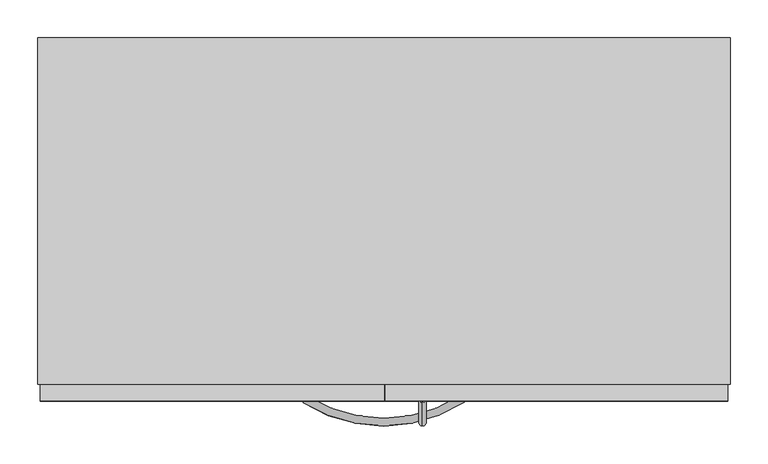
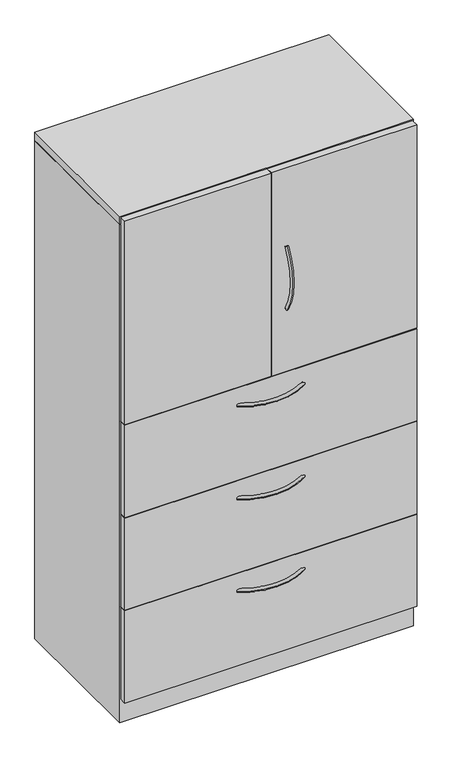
"""IFC4 building model written with IfcOpenShell, lengths in millimetres: furniture geometry, Steelcase - Universal Storage - Cabinet - Combination - Proud Steel : 65 1/2H - Hinged Doors/3 Drawers - 18 7/8D x 36W."""

import ifcopenshell
import ifcopenshell.guid

model = None  # the IFC model being written
_history = None  # IfcOwnerHistory: only IFC2X3 demands one
_inside = {}  # id of a spatial element -> (the spatial element, [elements in it])
_under = {}  # id of a project, library or spatial element -> (it, [spatial elements below it])
_declared = {}  # id of a project -> (the project, [libraries it declares])
_typed = {}  # id of a type object -> (the type object, [elements of that type])
_made_of = {}  # id of a material, layer set ... -> (it, [elements and type objects made of it])


def new_model(schema):
    """Start an empty IFC model of exactly this schema.

    Asked for "IFC4X3", IfcOpenShell would pick the latest addendum, in which some entities
    have other attributes; the version numbers below select the first issue.
    IFC2X3 requires an IfcOwnerHistory on every rooted entity: one is made here for all.
    """
    global model, _history
    if schema == "IFC4X3":
        model = ifcopenshell.file(schema_version=(4, 3, 0, 0))
    else:
        model = ifcopenshell.file(schema=schema)
    _inside.clear()
    _under.clear()
    _declared.clear()
    _typed.clear()
    _made_of.clear()
    _history = None
    if model.schema == "IFC2X3":
        org = make("IfcOrganization", Name="unknown")
        user = make(
            "IfcPersonAndOrganization",
            ThePerson=make("IfcPerson", FamilyName="unknown"),
            TheOrganization=org,
        )
        app = make(
            "IfcApplication",
            ApplicationDeveloper=org,
            Version="unknown",
            ApplicationFullName="unknown",
            ApplicationIdentifier="unknown",
        )
        _history = make(
            "IfcOwnerHistory",
            OwningUser=user,
            OwningApplication=app,
            ChangeAction="ADDED",
            CreationDate=0,
        )
    return model


def make(cls, **values):
    """One entity of the class cls with the attributes given. An attribute that is None is left unset."""
    return model.create_entity(
        cls, **{name: value for name, value in values.items() if value is not None}
    )


def rooted(cls, **values):
    """An entity with a GlobalId (a new one), such as an element, a storey or a relation."""
    return make(cls, GlobalId=ifcopenshell.guid.new(), OwnerHistory=_history, **values)


def si_unit(unit_type, name, prefix=None):
    """IfcSIUnit, for example si_unit("LENGTHUNIT", "METRE", prefix="MILLI")."""
    return make("IfcSIUnit", UnitType=unit_type, Prefix=prefix, Name=name)


def assignment(units):
    """IfcUnitAssignment: the units of a project."""
    return None if units is None else make("IfcUnitAssignment", Units=units)


def point(xyz):
    """IfcCartesianPoint."""
    return None if xyz is None else make("IfcCartesianPoint", Coordinates=xyz)


def direction(xyz):
    """IfcDirection."""
    return None if xyz is None else make("IfcDirection", DirectionRatios=xyz)


def frame(location, z_axis=None, x_axis=None):
    """IfcAxis2Placement3D, a coordinate frame: its origin and axes. An axis left out is left unset."""
    return make(
        "IfcAxis2Placement3D",
        Location=point(location),
        Axis=direction(z_axis),
        RefDirection=direction(x_axis),
    )


def origin():
    """The frame at (0, 0, 0) with its axes left unset."""
    return frame((0.0, 0.0, 0.0))


def place(relative_to, where):
    """IfcLocalPlacement: puts the frame where relative to a parent placement (None: the world)."""
    return make(
        "IfcLocalPlacement", PlacementRelTo=relative_to, RelativePlacement=where
    )


def context(
    kind, dimensions, precision=None, world=None, true_north=None, identifier=None
):
    """IfcGeometricRepresentationContext, for example the 3D "Model" context."""
    return make(
        "IfcGeometricRepresentationContext",
        ContextIdentifier=identifier,
        ContextType=kind,
        CoordinateSpaceDimension=dimensions,
        Precision=precision,
        WorldCoordinateSystem=world,
        TrueNorth=true_north,
    )


def project(units=None, contexts=None):
    """IfcProject with its units and contexts."""
    return rooted(
        "IfcProject",
        Name="project",
        RepresentationContexts=contexts,
        UnitsInContext=assignment(units),
    )


def spatial(cls, under=None, at=None, **own):
    """A site, building, storey or space (cls), placed at a placement, below another one or the project."""
    s = rooted(cls, ObjectPlacement=at, **own)
    if under is not None:
        _under.setdefault(under.id(), (under, []))[1].append(s)
    return s


def polyline(points):
    """IfcPolyline through the points."""
    return make("IfcPolyline", Points=[point(p) for p in points])


def circle_curve(where, radius):
    """IfcCircle in the frame where."""
    return make("IfcCircle", Position=where, Radius=radius)


def ellipse_curve(where, semi_axis1, semi_axis2):
    """IfcEllipse in the frame where."""
    return make(
        "IfcEllipse", Position=where, SemiAxis1=semi_axis1, SemiAxis2=semi_axis2
    )


def trimmed(basis, trim1, trim2, sense, master):
    """IfcTrimmedCurve: the piece of a basis curve between two trims."""
    return make(
        "IfcTrimmedCurve",
        BasisCurve=basis,
        Trim1=trim1,
        Trim2=trim2,
        SenseAgreement=sense,
        MasterRepresentation=master,
    )


def outline(outer, holes=None, kind="AREA"):
    """IfcArbitraryClosedProfileDef: a profile drawn as a closed curve; with holes, ...WithVoids."""
    if holes is None:
        return make("IfcArbitraryClosedProfileDef", ProfileType=kind, OuterCurve=outer)
    return make(
        "IfcArbitraryProfileDefWithVoids",
        ProfileType=kind,
        OuterCurve=outer,
        InnerCurves=holes,
    )


def extrude(swept, where, along, depth):
    """IfcExtrudedAreaSolid: the profile swept, set in the frame where, extruded along a direction by depth."""
    return make(
        "IfcExtrudedAreaSolid",
        SweptArea=swept,
        Position=where,
        ExtrudedDirection=direction(along),
        Depth=depth,
    )


def faces_of(points, faces, orient=None, outer=None):
    """IfcFace entities. A face is a list of loops; a loop is a list of indices into points, from 0.

    orient and outer hold one flag for each loop. By default every Orientation is true, the
    first loop of a face is its IfcFaceOuterBound and the others are IfcFaceBound.
    """
    made = []
    for i, loops in enumerate(faces):
        bounds = []
        for j, loop in enumerate(loops):
            is_outer = j == 0 if outer is None else outer[i][j]
            bounds.append(
                make(
                    "IfcFaceOuterBound" if is_outer else "IfcFaceBound",
                    Bound=make("IfcPolyLoop", Polygon=[points[k] for k in loop]),
                    Orientation=True if orient is None else orient[i][j],
                )
            )
        made.append(make("IfcFace", Bounds=bounds))
    return made


def faceted_brep(points, faces, orient=None, outer=None, voids=None):
    """IfcFacetedBrep: a solid bounded by flat faces; with voids (closed shells), ...WithVoids."""
    shared = [point(p) for p in points]
    hull = make("IfcClosedShell", CfsFaces=faces_of(shared, faces, orient, outer))
    if voids is None:
        return make("IfcFacetedBrep", Outer=hull)
    return make(
        "IfcFacetedBrepWithVoids",
        Outer=hull,
        Voids=[
            make(cls, CfsFaces=faces_of(shared, fs, o, b)) for cls, fs, o, b in voids
        ],
    )


def shape(context_of_items, identifier, shape_type, items):
    """IfcShapeRepresentation: the items that make up one representation, for example the "Body"."""
    return make(
        "IfcShapeRepresentation",
        ContextOfItems=context_of_items,
        RepresentationIdentifier=identifier,
        RepresentationType=shape_type,
        Items=items,
    )


def source(mapping_origin, context_of_items, identifier, shape_type, items):
    """IfcRepresentationMap: a shape defined once, which mapped items show again and again."""
    return make(
        "IfcRepresentationMap",
        MappingOrigin=mapping_origin,
        MappedRepresentation=shape(context_of_items, identifier, shape_type, items),
    )


def transform(
    local_origin,
    x_axis=None,
    y_axis=None,
    z_axis=None,
    scale=None,
    scale2=None,
    scale3=None,
    uniform=True,
):
    """IfcCartesianTransformationOperator3D, or its non-uniform kind. x_axis, y_axis, z_axis: its Axis1, 2, 3."""
    if uniform:
        return make(
            "IfcCartesianTransformationOperator3D",
            Axis1=direction(x_axis),
            Axis2=direction(y_axis),
            LocalOrigin=point(local_origin),
            Scale=scale,
            Axis3=direction(z_axis),
        )
    return make(
        "IfcCartesianTransformationOperator3DnonUniform",
        Axis1=direction(x_axis),
        Axis2=direction(y_axis),
        LocalOrigin=point(local_origin),
        Scale=scale,
        Axis3=direction(z_axis),
        Scale2=scale2,
        Scale3=scale3,
    )


def mapped(mapping_source, mapping_target):
    """IfcMappedItem: shows the shape of a source again, moved by a transform."""
    return make(
        "IfcMappedItem", MappingSource=mapping_source, MappingTarget=mapping_target
    )


def made_of(thing, what):
    """Note that an element or type object is made of a material, layer set ...; save() writes the relation."""
    if what is not None:
        _made_of.setdefault(what.id(), (what, []))[1].append(thing)
    return thing


def element(
    cls,
    number,
    at=None,
    inside=None,
    cuts=None,
    type_object=None,
    material=None,
    context=None,
    identifier="Body",
    shape_type=None,
    held_by="IfcProductDefinitionShape",
    body=None,
    shapes=None,
    **own,
):
    """One element of the class cls, such as IfcWall. Its Tag is "e" and its number.

    at: its placement. inside: the storey or other place that contains it. cuts: it is an
    opening in that element (IfcRelVoidsElement). A single representation is given by context,
    identifier, shape_type and body (its items); several are given by shapes. held_by: the class
    of the entity that holds the representations. save() writes the other relations.
    """
    e = rooted(cls, Tag="e%d" % number, ObjectPlacement=at, **own)
    if body is not None:
        shapes = [shape(context, identifier, shape_type, body)]
    if shapes is not None:
        e.Representation = make(held_by, Representations=shapes)
    if inside is not None:
        _inside.setdefault(inside.id(), (inside, []))[1].append(e)
    if cuts is not None:
        rooted(
            "IfcRelVoidsElement", RelatingBuildingElement=cuts, RelatedOpeningElement=e
        )
    if type_object is not None:
        _typed.setdefault(type_object.id(), (type_object, []))[1].append(e)
    return made_of(e, material)


def aggregate(whole, parts):
    """IfcRelAggregates: a whole, such as a stair, and the parts it consists of."""
    return rooted("IfcRelAggregates", RelatingObject=whole, RelatedObjects=parts)


def save(model, path):
    """Write the relations noted so far, then the file.

    IfcRelAggregates (storeys below a building ...), IfcRelContainedInSpatialStructure (elements
    in a storey), IfcRelDefinesByType, IfcRelAssociatesMaterial and IfcRelDeclares: one each for
    every whole, place, type object, material and project.
    """
    for whole, parts in _under.values():
        aggregate(whole, parts)
    for where, things in _inside.values():
        rooted(
            "IfcRelContainedInSpatialStructure",
            RelatedElements=things,
            RelatingStructure=where,
        )
    for kind, things in _typed.values():
        rooted("IfcRelDefinesByType", RelatedObjects=things, RelatingType=kind)
    for what, things in _made_of.values():
        rooted("IfcRelAssociatesMaterial", RelatedObjects=things, RelatingMaterial=what)
    for by, libraries in _declared.values():
        rooted("IfcRelDeclares", RelatingContext=by, RelatedDefinitions=libraries)
    model.write(path)


def plane_surface(at):
    """IfcPlane: the flat surface through the origin of the frame at, square to its z axis."""
    return make("IfcPlane", Position=at)


def revolved_surface(curve, axis_point, axis_direction):
    """IfcSurfaceOfRevolution: the curve turned about the line through axis_point along axis_direction."""
    return make(
        "IfcSurfaceOfRevolution",
        SweptCurve=make("IfcArbitraryOpenProfileDef", ProfileType="CURVE", Curve=curve),
        AxisPosition=make("IfcAxis1Placement", Location=point(axis_point), Axis=direction(axis_direction)),
    )


def advanced_brep(points, edges, surfaces, faces):
    """IfcAdvancedBrep: a solid bounded by faces that lie on surfaces and meet in shared edges.

    An edge is (start, end): straight between two places in points (the first is 0);
    or (start, end, curve); or (start, end, curve, False) where it runs against its curve.
    A face is (place in surfaces, loops), or (place, loops, False) where it looks against
    its surface's normal. A loop lists edges by number (the first is 1), with a minus sign
    where the edge is run from its end to its start. The first loop is the outer one.
    """
    corners = [point(p) for p in points]
    vertices = [make("IfcVertexPoint", VertexGeometry=c) for c in corners]
    made = []
    for start, end, *more in edges:
        made.append(
            make(
                "IfcEdgeCurve",
                EdgeStart=vertices[start],
                EdgeEnd=vertices[end],
                EdgeGeometry=more[0] if more else make("IfcPolyline", Points=[corners[start], corners[end]]),
                SameSense=more[1] if len(more) > 1 else True,
            )
        )
    hull = []
    for where, loops, *sense in faces:
        bounds = []
        for j, loop in enumerate(loops):
            ring = [make("IfcOrientedEdge", EdgeElement=made[abs(k) - 1], Orientation=k > 0) for k in loop]
            bounds.append(
                make(
                    "IfcFaceOuterBound" if j == 0 else "IfcFaceBound",
                    Bound=make("IfcEdgeLoop", EdgeList=ring),
                    Orientation=True,
                )
            )
        hull.append(make("IfcAdvancedFace", Bounds=bounds, FaceSurface=surfaces[where], SameSense=sense[0] if sense else True))
    return make("IfcAdvancedBrep", Outer=make("IfcClosedShell", CfsFaces=hull))


def furniture_5bd7b963(model_context):
    return source(origin(), model_context, "Body", "SolidModel", [
        extrude(outline(polyline([(911.2225413, -479.552), (3.1725353, -479.552), (3.1725353, -457.3261219), (911.2225413, -457.3261219), (911.2225413, -479.552)])), frame((0.0, 0.0, 77.724), z_axis=(0.0, 0.0, 1.0), x_axis=(1.0, 0.0, 0.0)), (0.0, 0.0, 1.0), 303.276),
        extrude(outline(polyline([(911.2225413, -479.552), (3.1725353, -479.552), (3.1725353, -457.3261219), (911.2225413, -457.3261219), (911.2225413, -479.552)])), frame((0.0, 0.0, 382.524), z_axis=(0.0, 0.0, 1.0), x_axis=(1.0, 0.0, 0.0)), (0.0, 0.0, 1.0), 303.276),
        extrude(outline(polyline([(911.2225413, -479.552), (3.1725353, -479.552), (3.1725353, -457.3261219), (911.2225413, -457.3261219), (911.2225413, -479.552)])), frame((0.0, 0.0, 687.3240349), z_axis=(0.0, 0.0, 1.0), x_axis=(1.0, 0.0, 0.0)), (0.0, 0.0, 1.0), 303.2759651),
        extrude(outline(polyline([(457.2, -479.552), (3.1725353, -479.552), (3.1725353, -457.3261219), (457.2, -457.3261219), (457.2, -479.552)])), frame((0.0, 0.0, 992.5062596), z_axis=(0.0, 0.0, 1.0), x_axis=(1.0, 0.0, 0.0)), (0.0, 0.0, 1.0), 668.02),
        extrude(outline(polyline([(911.2225413, -479.552), (458.7239992, -479.552), (458.7239992, -457.3261219), (911.2225413, -457.3261219), (911.2225413, -479.552)])), frame((0.0, 0.0, 992.5062596), z_axis=(0.0, 0.0, 1.0), x_axis=(1.0, 0.0, 0.0)), (0.0, 0.0, 1.0), 668.02),
        advanced_brep(
        [(507.9682496, -481.5705994, 1404.643666), (507.9682496, -473.0108019, 1399.1705073), (507.9682496, -481.1337636, 1192.3367456), (507.9682496, -472.5965612, 1197.8450825)],
        [
            (0, 1, circle_curve(frame((507.9682496, -477.2907007, 1401.9070866), z_axis=(0.0, 0.5386967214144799, 0.842499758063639), x_axis=(0.0, 0.842499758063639, -0.5386967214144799)), 5.08)),
            (1, 0, circle_curve(frame((507.9682496, -477.2907007, 1401.9070866), z_axis=(0.0, 0.5386967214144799, 0.842499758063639), x_axis=(0.0, 0.842499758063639, -0.5386967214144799)), 5.08)),
            (2, 3, circle_curve(frame((507.9682496, -476.8651624, 1195.0909141), z_axis=(0.0, 0.5421591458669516, -0.8402758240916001), x_axis=(0.0, 0.8402758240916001, 0.5421591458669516)), 5.08)),
            (3, 2, circle_curve(frame((507.9682496, -476.8651624, 1195.0909141), z_axis=(0.0, 0.5421591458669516, -0.8402758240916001), x_axis=(0.0, 0.8402758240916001, 0.5421591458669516)), 5.08)),
            (3, 1, circle_curve(frame((507.9682496, -316.0827352, 1298.8302589), z_axis=(-1.0, 0.0, 0.0), x_axis=(0.0, -0.8424997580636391, 0.5386967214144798)), 186.2648211)),
            (0, 2, circle_curve(frame((507.9682496, -316.0827352, 1298.8302589), z_axis=(1.0, 0.0, 0.0), x_axis=(0.0, -0.8424997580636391, 0.5386967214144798)), 196.4248211)),
        ],
        [
            plane_surface(frame((508.7619996, -476.6365286, 1401.4888072), z_axis=(0.0, 0.5386967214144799, 0.8424997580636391), x_axis=(1.0, 0.0, 0.0))),
            plane_surface(frame((508.7619996, -476.2127171, 1195.511882), z_axis=(0.0, 0.5421591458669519, -0.8402758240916), x_axis=(1.0, 0.0, 0.0))),
            revolved_surface(trimmed(ellipse_curve(frame((507.9682496, -477.2907007, 1401.9070866), z_axis=(0.0, 0.5386967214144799, 0.842499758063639), x_axis=(0.0, 0.842499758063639, -0.5386967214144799)), 5.08, 5.08), [point((507.9682496, -481.5705994, 1404.643666))], [point((507.9682496, -473.0108019, 1399.1705073))], True, "CARTESIAN"), (508.7619996, -316.0827352, 1298.8302589), (1.0, 0.0, 0.0)),
            revolved_surface(trimmed(ellipse_curve(frame((507.9682496, -477.2907007, 1401.9070866), z_axis=(0.0, 0.5386967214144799, 0.842499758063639), x_axis=(0.0, 0.842499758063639, -0.5386967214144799)), 5.08, 5.08), [point((507.9682496, -473.0108019, 1399.1705073))], [point((507.9682496, -481.5705994, 1404.643666))], True, "CARTESIAN"), (508.7619996, -316.0827352, 1298.8302589), (1.0, 0.0, 0.0)),
        ],
        [
            (0, [[1, 2]]),
            (1, [[3, 4]]),
            (2, [[5, -1, 6, -4]]),
            (3, [[-6, -2, -5, -3]]),
        ],
    ),
        advanced_brep(
        [(350.6245932, -481.5705994, 323.56425), (356.0977519, -473.0108019, 323.56425), (562.9315136, -481.1337636, 323.56425), (557.4231767, -472.5965612, 323.56425)],
        [
            (0, 1, circle_curve(frame((353.3611726, -477.2907007, 323.56425), z_axis=(-0.8424997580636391, 0.5386967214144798, 0.0), x_axis=(0.5386967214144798, 0.8424997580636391, 0.0)), 5.08)),
            (1, 0, circle_curve(frame((353.3611726, -477.2907007, 323.56425), z_axis=(-0.8424997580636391, 0.5386967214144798, 0.0), x_axis=(0.5386967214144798, 0.8424997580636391, 0.0)), 5.08)),
            (2, 3, circle_curve(frame((560.1773452, -476.8651624, 323.56425), z_axis=(0.8402758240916, 0.5421591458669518, 0.0), x_axis=(-0.5421591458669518, 0.8402758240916, 0.0)), 5.08)),
            (3, 2, circle_curve(frame((560.1773452, -476.8651624, 323.56425), z_axis=(0.8402758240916, 0.5421591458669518, 0.0), x_axis=(-0.5421591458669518, 0.8402758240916, 0.0)), 5.08)),
            (3, 1, circle_curve(frame((456.4380004, -316.0827352, 323.56425), z_axis=(0.0, 0.0, -1.0), x_axis=(-0.5386967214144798, -0.8424997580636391, 0.0)), 186.2648211)),
            (0, 2, circle_curve(frame((456.4380004, -316.0827352, 323.56425), z_axis=(0.0, 0.0, 1.0), x_axis=(-0.5386967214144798, -0.8424997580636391, 0.0)), 196.4248211)),
        ],
        [
            plane_surface(frame((353.7794521, -476.6365286, 324.358), z_axis=(-0.8424997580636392, 0.5386967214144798, 0.0), x_axis=(0.0, 0.0, 1.0))),
            plane_surface(frame((559.7563772, -476.2127171, 324.358), z_axis=(0.8402758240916, 0.5421591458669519, 0.0), x_axis=(0.0, 0.0, 1.0))),
            revolved_surface(trimmed(ellipse_curve(frame((353.3611726, -477.2907007, 323.56425), z_axis=(-0.8424997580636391, 0.5386967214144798, 0.0), x_axis=(0.5386967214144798, 0.8424997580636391, 0.0)), 5.08, 5.08), [point((350.6245932, -481.5705994, 323.56425))], [point((356.0977519, -473.0108019, 323.56425))], True, "CARTESIAN"), (456.4380004, -316.0827352, 324.358), (0.0, 0.0, 1.0)),
            revolved_surface(trimmed(ellipse_curve(frame((353.3611726, -477.2907007, 323.56425), z_axis=(-0.8424997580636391, 0.5386967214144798, 0.0), x_axis=(0.5386967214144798, 0.8424997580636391, 0.0)), 5.08, 5.08), [point((356.0977519, -473.0108019, 323.56425))], [point((350.6245932, -481.5705994, 323.56425))], True, "CARTESIAN"), (456.4380004, -316.0827352, 324.358), (0.0, 0.0, 1.0)),
        ],
        [
            (0, [[1, 2]]),
            (1, [[3, 4]]),
            (2, [[5, -1, 6, -4]]),
            (3, [[-6, -2, -5, -3]]),
        ],
    ),
        advanced_brep(
        [(350.6245932, -481.5705994, 627.85625), (356.0977519, -473.0108019, 627.85625), (562.9315136, -481.1337636, 627.85625), (557.4231767, -472.5965612, 627.85625)],
        [
            (0, 1, circle_curve(frame((353.3611726, -477.2907007, 627.85625), z_axis=(-0.8424997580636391, 0.5386967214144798, 0.0), x_axis=(0.5386967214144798, 0.8424997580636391, 0.0)), 5.08)),
            (1, 0, circle_curve(frame((353.3611726, -477.2907007, 627.85625), z_axis=(-0.8424997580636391, 0.5386967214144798, 0.0), x_axis=(0.5386967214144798, 0.8424997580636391, 0.0)), 5.08)),
            (2, 3, circle_curve(frame((560.1773452, -476.8651624, 627.85625), z_axis=(0.8402758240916, 0.5421591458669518, 0.0), x_axis=(-0.5421591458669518, 0.8402758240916, 0.0)), 5.08)),
            (3, 2, circle_curve(frame((560.1773452, -476.8651624, 627.85625), z_axis=(0.8402758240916, 0.5421591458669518, 0.0), x_axis=(-0.5421591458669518, 0.8402758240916, 0.0)), 5.08)),
            (3, 1, circle_curve(frame((456.4380004, -316.0827352, 627.85625), z_axis=(0.0, 0.0, -1.0), x_axis=(-0.5386967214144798, -0.8424997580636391, 0.0)), 186.2648211)),
            (0, 2, circle_curve(frame((456.4380004, -316.0827352, 627.85625), z_axis=(0.0, 0.0, 1.0), x_axis=(-0.5386967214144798, -0.8424997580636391, 0.0)), 196.4248211)),
        ],
        [
            plane_surface(frame((353.7794521, -476.6365286, 628.65), z_axis=(-0.8424997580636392, 0.5386967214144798, 0.0), x_axis=(0.0, 0.0, 1.0))),
            plane_surface(frame((559.7563772, -476.2127171, 628.65), z_axis=(0.8402758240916, 0.5421591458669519, 0.0), x_axis=(0.0, 0.0, 1.0))),
            revolved_surface(trimmed(ellipse_curve(frame((353.3611726, -477.2907007, 627.85625), z_axis=(-0.8424997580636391, 0.5386967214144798, 0.0), x_axis=(0.5386967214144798, 0.8424997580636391, 0.0)), 5.08, 5.08), [point((350.6245932, -481.5705994, 627.85625))], [point((356.0977519, -473.0108019, 627.85625))], True, "CARTESIAN"), (456.4380004, -316.0827352, 628.65), (0.0, 0.0, 1.0)),
            revolved_surface(trimmed(ellipse_curve(frame((353.3611726, -477.2907007, 627.85625), z_axis=(-0.8424997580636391, 0.5386967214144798, 0.0), x_axis=(0.5386967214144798, 0.8424997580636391, 0.0)), 5.08, 5.08), [point((356.0977519, -473.0108019, 627.85625))], [point((350.6245932, -481.5705994, 627.85625))], True, "CARTESIAN"), (456.4380004, -316.0827352, 628.65), (0.0, 0.0, 1.0)),
        ],
        [
            (0, [[1, 2]]),
            (1, [[3, 4]]),
            (2, [[5, -1, 6, -4]]),
            (3, [[-6, -2, -5, -3]]),
        ],
    ),
        advanced_brep(
        [(350.6245932, -481.5705994, 932.65625), (356.0977519, -473.0108019, 932.65625), (562.9315136, -481.1337636, 932.65625), (557.4231767, -472.5965612, 932.65625)],
        [
            (0, 1, circle_curve(frame((353.3611726, -477.2907007, 932.65625), z_axis=(-0.8424997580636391, 0.5386967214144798, 0.0), x_axis=(0.5386967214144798, 0.8424997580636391, 0.0)), 5.08)),
            (1, 0, circle_curve(frame((353.3611726, -477.2907007, 932.65625), z_axis=(-0.8424997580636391, 0.5386967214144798, 0.0), x_axis=(0.5386967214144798, 0.8424997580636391, 0.0)), 5.08)),
            (2, 3, circle_curve(frame((560.1773452, -476.8651624, 932.65625), z_axis=(0.8402758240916, 0.5421591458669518, 0.0), x_axis=(-0.5421591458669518, 0.8402758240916, 0.0)), 5.08)),
            (3, 2, circle_curve(frame((560.1773452, -476.8651624, 932.65625), z_axis=(0.8402758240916, 0.5421591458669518, 0.0), x_axis=(-0.5421591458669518, 0.8402758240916, 0.0)), 5.08)),
            (3, 1, circle_curve(frame((456.4380004, -316.0827352, 932.65625), z_axis=(0.0, 0.0, -1.0), x_axis=(-0.5386967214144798, -0.8424997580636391, 0.0)), 186.2648211)),
            (0, 2, circle_curve(frame((456.4380004, -316.0827352, 932.65625), z_axis=(0.0, 0.0, 1.0), x_axis=(-0.5386967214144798, -0.8424997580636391, 0.0)), 196.4248211)),
        ],
        [
            plane_surface(frame((353.7794521, -476.6365286, 933.45), z_axis=(-0.8424997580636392, 0.5386967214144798, 0.0), x_axis=(0.0, 0.0, 1.0))),
            plane_surface(frame((559.7563772, -476.2127171, 933.45), z_axis=(0.8402758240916, 0.5421591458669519, 0.0), x_axis=(0.0, 0.0, 1.0))),
            revolved_surface(trimmed(ellipse_curve(frame((353.3611726, -477.2907007, 932.65625), z_axis=(-0.8424997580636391, 0.5386967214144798, 0.0), x_axis=(0.5386967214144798, 0.8424997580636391, 0.0)), 5.08, 5.08), [point((350.6245932, -481.5705994, 932.65625))], [point((356.0977519, -473.0108019, 932.65625))], True, "CARTESIAN"), (456.4380004, -316.0827352, 933.45), (0.0, 0.0, 1.0)),
            revolved_surface(trimmed(ellipse_curve(frame((353.3611726, -477.2907007, 932.65625), z_axis=(-0.8424997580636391, 0.5386967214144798, 0.0), x_axis=(0.5386967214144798, 0.8424997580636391, 0.0)), 5.08, 5.08), [point((356.0977519, -473.0108019, 932.65625))], [point((350.6245932, -481.5705994, 932.65625))], True, "CARTESIAN"), (456.4380004, -316.0827352, 933.45), (0.0, 0.0, 1.0)),
        ],
        [
            (0, [[1, 2]]),
            (1, [[3, 4]]),
            (2, [[5, -1, 6, -4]]),
            (3, [[-6, -2, -5, -3]]),
        ],
    ),
        faceted_brep([(25.4000008, -457.3261219, 76.2), (889.0000242, -457.3261219, 76.2), (889.0000242, -25.4000008, 76.2), (25.4000008, -25.4000008, 76.2), (914.4, 0.0, 0.0), (914.4, -457.3261219, 0.0), (0.0, -457.3261219, 0.0), (0.0, 0.0, 0.0), (0.0, 0.0, 1636.776), (914.4, 0.0, 1636.776), (0.0, -457.3261219, 1636.776), (914.4, -457.3261219, 1636.776), (889.0000242, -457.3261219, 1636.776), (25.4000008, -457.3261219, 1636.776), (889.0000242, -25.4000008, 1636.776), (25.4000008, -25.4000008, 1636.776)], [[[0, 1, 2, 3]], [[4, 5, 6, 7]], [[4, 7, 8, 9]], [[8, 7, 6, 10]], [[10, 6, 5, 11, 12, 1, 0, 13]], [[11, 5, 4, 9]], [[14, 12, 11, 9, 8, 10, 13, 15]], [[12, 14, 2, 1]], [[15, 13, 0, 3]], [[14, 15, 3, 2]]]),
        extrude(outline(polyline([(914.4, 0.0), (914.4, -457.3261219), (0.0, -457.3261219), (0.0, 0.0), (914.4, 0.0)])), frame((0.0, 0.0, 1638.2999516), z_axis=(0.0, 0.0, 1.0), x_axis=(1.0, 0.0, 0.0)), (0.0, 0.0, 1.0), 25.4000484),
    ])


if __name__ == "__main__":
    model = new_model("IFC4")
    model_context = context("Model", 3, world=origin())
    ifc_project = project(units=[si_unit("LENGTHUNIT", "METRE", prefix="MILLI")], contexts=[model_context])
    site = spatial("IfcSite", under=ifc_project)
    building = spatial("IfcBuilding", under=site)
    placement = place(None, origin())
    furniture_shape = furniture_5bd7b963(model_context)
    element("IfcFurniture", 1, ObjectType="Steelcase - Universal Storage - Cabinet - Combination - Proud Steel : 65 1/2H - Hinged Doors/3 Drawers - 18 7/8D x 36W", at=placement, inside=building, context=model_context, shape_type="MappedRepresentation", body=[
        mapped(furniture_shape, transform((0.0, 0.0, 0.0), x_axis=(1.0, 0.0, 0.0), y_axis=(0.0, 1.0, 0.0), z_axis=(0.0, 0.0, 1.0))),
    ])
    save(model, "model.ifc")
